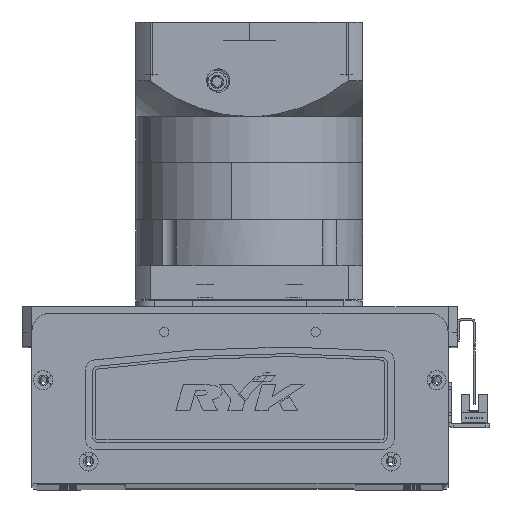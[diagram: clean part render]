
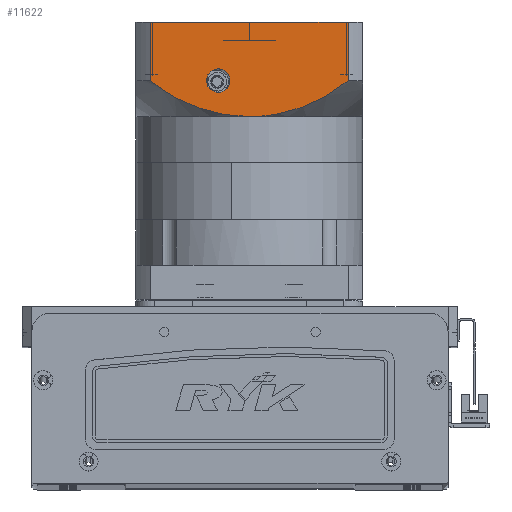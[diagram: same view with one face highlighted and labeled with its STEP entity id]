
A CAD part, top view. The second image highlights one B-rep face of the part: STEP entity #11622.
In plain terms, the highlighted planar face has unit normal (0, 0, 1) as drawn and (0, -1, 0) by its records, which use the part's own axes.
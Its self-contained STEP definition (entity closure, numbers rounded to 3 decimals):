
#370 = CARTESIAN_POINT ( 'NONE',  ( -12.993, -60., -101.537 ) ) ;
#1985 = VECTOR ( 'NONE', #46082, 1000. ) ;
#2629 = CARTESIAN_POINT ( 'NONE',  ( 42.555, -60., -112.543 ) ) ;
#2845 = CARTESIAN_POINT ( 'NONE',  ( 36.444, -60., -108.986 ) ) ;
#3268 = CARTESIAN_POINT ( 'NONE',  ( 19.894, -60., -102.964 ) ) ;
#3335 = AXIS2_PLACEMENT_3D ( 'NONE', #56479, #7355, #16648 ) ;
#3378 = DIRECTION ( 'NONE',  ( 0., 0., -1. ) ) ;
#4709 = CARTESIAN_POINT ( 'NONE',  ( -32.118, -60., -107.084 ) ) ;
#5051 = DIRECTION ( 'NONE',  ( 0., -1., 0. ) ) ;
#5695 = LINE ( 'NONE', #7398, #25120 ) ;
#7355 = DIRECTION ( 'NONE',  ( 0., 1., 0. ) ) ;
#7398 = CARTESIAN_POINT ( 'NONE',  ( 52.156, -60., -150.5 ) ) ;
#7631 = CARTESIAN_POINT ( 'NONE',  ( 44.553, -60., -113.817 ) ) ;
#9155 = CARTESIAN_POINT ( 'NONE',  ( 41.545, -60., -111.931 ) ) ;
#9503 = VERTEX_POINT ( 'NONE', #58058 ) ;
#9544 = CARTESIAN_POINT ( 'NONE',  ( 52.156, -60., -119.5 ) ) ;
#10334 = CARTESIAN_POINT ( 'NONE',  ( 0., -60., -100.5 ) ) ;
#10736 = EDGE_LOOP ( 'NONE', ( #38019, #54402 ) ) ;
#11395 = VERTEX_POINT ( 'NONE', #13947 ) ;
#11622 = ADVANCED_FACE ( 'NONE', ( #23809, #63277 ), #34984, .T. ) ;
#11942 = VERTEX_POINT ( 'NONE', #9544 ) ;
#13165 = VERTEX_POINT ( 'NONE', #22249 ) ;
#13947 = CARTESIAN_POINT ( 'NONE',  ( 52.156, -60., -150.5 ) ) ;
#14417 = VERTEX_POINT ( 'NONE', #47845 ) ;
#14448 = CARTESIAN_POINT ( 'NONE',  ( -35.342, -60., -108.587 ) ) ;
#14657 = CARTESIAN_POINT ( 'NONE',  ( -38.51, -60., -110.207 ) ) ;
#16648 = DIRECTION ( 'NONE',  ( 0., 0., -1. ) ) ;
#17344 = CARTESIAN_POINT ( 'NONE',  ( 18.739, -60., -102.681 ) ) ;
#18001 = CARTESIAN_POINT ( 'NONE',  ( 0., -60., -100.5 ) ) ;
#19260 = CARTESIAN_POINT ( 'NONE',  ( -2.376, -60., -100.5 ) ) ;
#19463 = CARTESIAN_POINT ( 'NONE',  ( -23.319, -60., -103.777 ) ) ;
#19675 = CARTESIAN_POINT ( 'NONE',  ( -11.825, -60., -101.356 ) ) ;
#20325 = EDGE_CURVE ( 'NONE', #61776, #45015, #23194, .T. ) ;
#21315 = EDGE_CURVE ( 'NONE', #13165, #11942, #32459, .T. ) ;
#21545 = AXIS2_PLACEMENT_3D ( 'NONE', #58151, #28318, #3378 ) ;
#22160 = DIRECTION ( 'NONE',  ( 0., 0., 1. ) ) ;
#22249 = CARTESIAN_POINT ( 'NONE',  ( 0., -60., -100.5 ) ) ;
#23194 = LINE ( 'NONE', #36905, #39462 ) ;
#23805 = CARTESIAN_POINT ( 'NONE',  ( -48.52, -60., -116.438 ) ) ;
#23809 = FACE_OUTER_BOUND ( 'NONE', #36136, .T. ) ;
#23979 = EDGE_CURVE ( 'NONE', #45015, #13165, #53418, .T. ) ;
#25120 = VECTOR ( 'NONE', #27343, 1000. ) ;
#26214 = EDGE_CURVE ( 'NONE', #61776, #11395, #30737, .T. ) ;
#27343 = DIRECTION ( 'NONE',  ( 0., 0., 1. ) ) ;
#28318 = DIRECTION ( 'NONE',  ( 0., 1., 0. ) ) ;
#28367 = ORIENTED_EDGE ( 'NONE', *, *, #21315, .F. ) ;
#29113 = CARTESIAN_POINT ( 'NONE',  ( 16.426, -60., -102.169 ) ) ;
#29239 = CARTESIAN_POINT ( 'NONE',  ( -29.939, -60., -106.183 ) ) ;
#30697 = ORIENTED_EDGE ( 'NONE', *, *, #23979, .F. ) ;
#30737 = LINE ( 'NONE', #60378, #1985 ) ;
#32393 = EDGE_CURVE ( 'NONE', #14417, #9503, #42690, .T. ) ;
#32459 = B_SPLINE_CURVE_WITH_KNOTS ( 'NONE', 3,
 ( #18001, #42055, #32986, #53719, #29113, #17344, #3268, #56962, #61957, #62167, #2845, #9155, #2629, #7631, #37523, #54762, #44417, #34503 ),
 .UNSPECIFIED., .F., .F.,
 ( 4, 2, 2, 2, 2, 2, 2, 2, 4 ),
 ( 0., 0.014, 0.018, 0.021, 0.028, 0.042, 0.046, 0.05, 0.057 ),
 .UNSPECIFIED. ) ;
#32986 = CARTESIAN_POINT ( 'NONE',  ( 9.454, -60., -100.914 ) ) ;
#33355 = CARTESIAN_POINT ( 'NONE',  ( -52.156, -60., -119.5 ) ) ;
#34202 = CARTESIAN_POINT ( 'NONE',  ( -39.546, -60., -110.776 ) ) ;
#34503 = CARTESIAN_POINT ( 'NONE',  ( 52.156, -60., -119.5 ) ) ;
#34622 = CARTESIAN_POINT ( 'NONE',  ( -44.656, -60., -113.73 ) ) ;
#34984 = PLANE ( 'NONE',  #54969 ) ;
#36136 = EDGE_LOOP ( 'NONE', ( #40809, #53990, #37928, #28367, #30697 ) ) ;
#36905 = CARTESIAN_POINT ( 'NONE',  ( -52.156, -60., -97.5 ) ) ;
#37523 = CARTESIAN_POINT ( 'NONE',  ( 45.542, -60., -114.478 ) ) ;
#37928 = ORIENTED_EDGE ( 'NONE', *, *, #53041, .T. ) ;
#38019 = ORIENTED_EDGE ( 'NONE', *, *, #41498, .T. ) ;
#39462 = VECTOR ( 'NONE', #22160, 1000. ) ;
#39881 = CARTESIAN_POINT ( 'NONE',  ( -52.156, -60., -150.5 ) ) ;
#40355 = CARTESIAN_POINT ( 'NONE',  ( -60., -60., -150.5 ) ) ;
#40809 = ORIENTED_EDGE ( 'NONE', *, *, #20325, .F. ) ;
#41498 = EDGE_CURVE ( 'NONE', #9503, #14417, #60679, .T. ) ;
#42055 = CARTESIAN_POINT ( 'NONE',  ( 4.753, -60., -100.5 ) ) ;
#42690 = CIRCLE ( 'NONE', #21545, 6.25 ) ;
#44417 = CARTESIAN_POINT ( 'NONE',  ( 50.338, -60., -117.969 ) ) ;
#45015 = VERTEX_POINT ( 'NONE', #54045 ) ;
#46082 = DIRECTION ( 'NONE',  ( 1., 0., 0. ) ) ;
#47845 = CARTESIAN_POINT ( 'NONE',  ( 16.5, -60., -113.25 ) ) ;
#49123 = CARTESIAN_POINT ( 'NONE',  ( -8.294, -60., -100.916 ) ) ;
#49328 = CARTESIAN_POINT ( 'NONE',  ( -36.409, -60., -109.113 ) ) ;
#49752 = CARTESIAN_POINT ( 'NONE',  ( -4.747, -60., -100.604 ) ) ;
#53041 = EDGE_CURVE ( 'NONE', #11395, #11942, #5695, .T. ) ;
#53418 = B_SPLINE_CURVE_WITH_KNOTS ( 'NONE', 3,
 ( #33355, #23805, #34622, #34202, #14657, #49328, #14448, #4709, #29239, #19463, #59475, #370, #19675, #59676, #49123, #49752, #19260, #10334 ),
 .UNSPECIFIED., .F., .F.,
 ( 4, 2, 2, 2, 2, 2, 2, 2, 4 ),
 ( 0., 0.014, 0.018, 0.021, 0.028, 0.042, 0.046, 0.05, 0.057 ),
 .UNSPECIFIED. ) ;
#53719 = CARTESIAN_POINT ( 'NONE',  ( 15.267, -60., -101.938 ) ) ;
#53990 = ORIENTED_EDGE ( 'NONE', *, *, #26214, .T. ) ;
#54045 = CARTESIAN_POINT ( 'NONE',  ( -52.156, -60., -119.5 ) ) ;
#54388 = DIRECTION ( 'NONE',  ( 1., 0., 0. ) ) ;
#54402 = ORIENTED_EDGE ( 'NONE', *, *, #32393, .T. ) ;
#54762 = CARTESIAN_POINT ( 'NONE',  ( 48.457, -60., -116.522 ) ) ;
#54969 = AXIS2_PLACEMENT_3D ( 'NONE', #40355, #5051, #54388 ) ;
#56479 = CARTESIAN_POINT ( 'NONE',  ( 16.5, -60., -119.5 ) ) ;
#56962 = CARTESIAN_POINT ( 'NONE',  ( 23.329, -60., -103.886 ) ) ;
#58058 = CARTESIAN_POINT ( 'NONE',  ( 16.5, -60., -125.75 ) ) ;
#58151 = CARTESIAN_POINT ( 'NONE',  ( 16.5, -60., -119.5 ) ) ;
#59475 = CARTESIAN_POINT ( 'NONE',  ( -18.792, -60., -102.562 ) ) ;
#59676 = CARTESIAN_POINT ( 'NONE',  ( -9.477, -60., -101.046 ) ) ;
#60378 = CARTESIAN_POINT ( 'NONE',  ( -60., -60., -150.5 ) ) ;
#60679 = CIRCLE ( 'NONE', #3335, 6.25 ) ;
#61776 = VERTEX_POINT ( 'NONE', #39881 ) ;
#61957 = CARTESIAN_POINT ( 'NONE',  ( 25.577, -60., -104.596 ) ) ;
#62167 = CARTESIAN_POINT ( 'NONE',  ( 32.196, -60., -107.007 ) ) ;
#63277 = FACE_BOUND ( 'NONE', #10736, .T. ) ;
